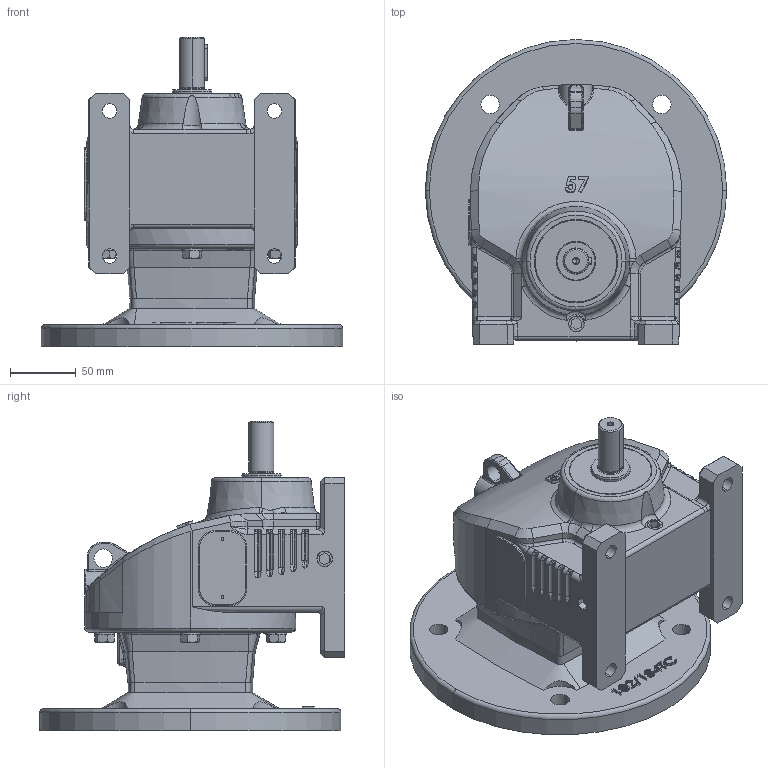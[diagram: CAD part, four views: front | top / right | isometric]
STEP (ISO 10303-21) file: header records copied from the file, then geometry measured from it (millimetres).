
FILE_DESCRIPTION (( 'STEP AP203' ), '1' );
FILE_NAME ('WINL57.STEP', '2019-08-22T06:03:58', ( 'user' ), ( '' ), 'SwSTEP 2.0', 'SolidWorks 2012', '' );
FILE_SCHEMA (( 'CONFIG_CONTROL_DESIGN' ));
Length unit declared in the file: millimetre
Products named in the file (1): WINL57
Bounding box: 228.6 x 231.3 x 235 mm (x, y, z)
Volume: 3257755.7 mm3; surface area: 243738.5 mm2
Topology: 1 solids, 1 shells, 947 faces, 2398 edges, 1513 vertices
Faces by surface type: plane 362, cylinder 257, bspline 179, cone 74, torus 69, sphere 6
Entity records: 41167 total; most frequent: CARTESIAN_POINT 19796, ORIENTED_EDGE 4780, DIRECTION 3847, EDGE_CURVE 2390, VERTEX_POINT 1513, AXIS2_PLACEMENT_3D 1355, LINE 1137, VECTOR 1137
